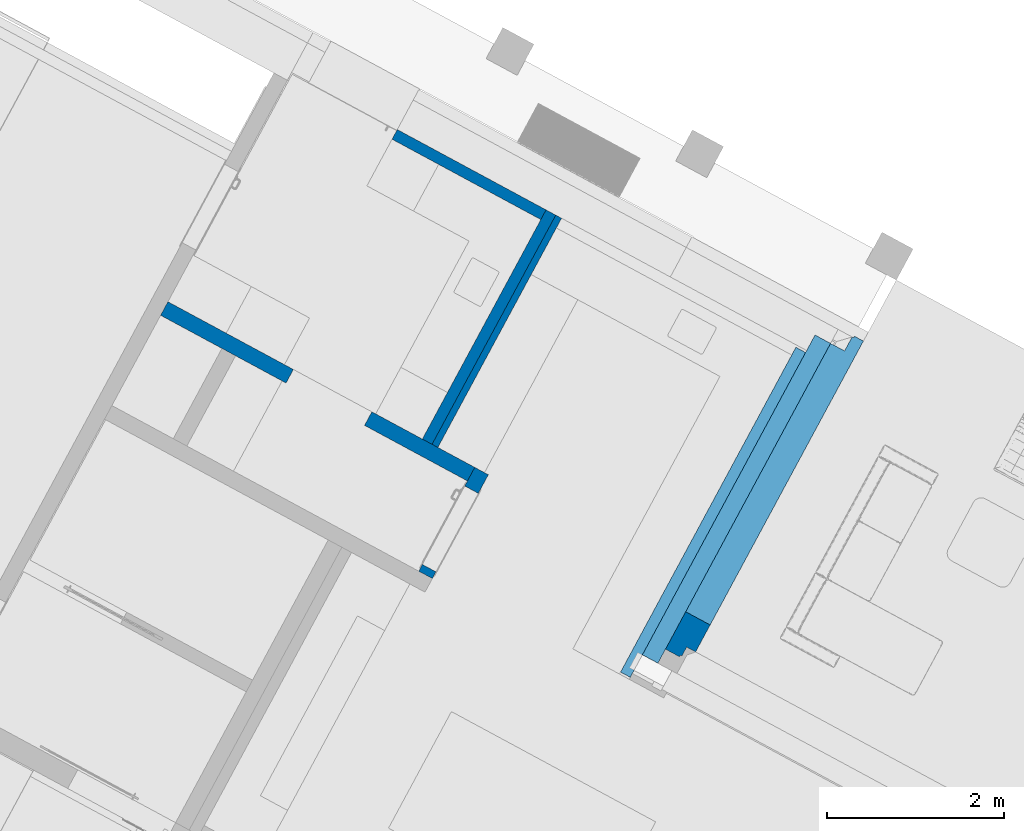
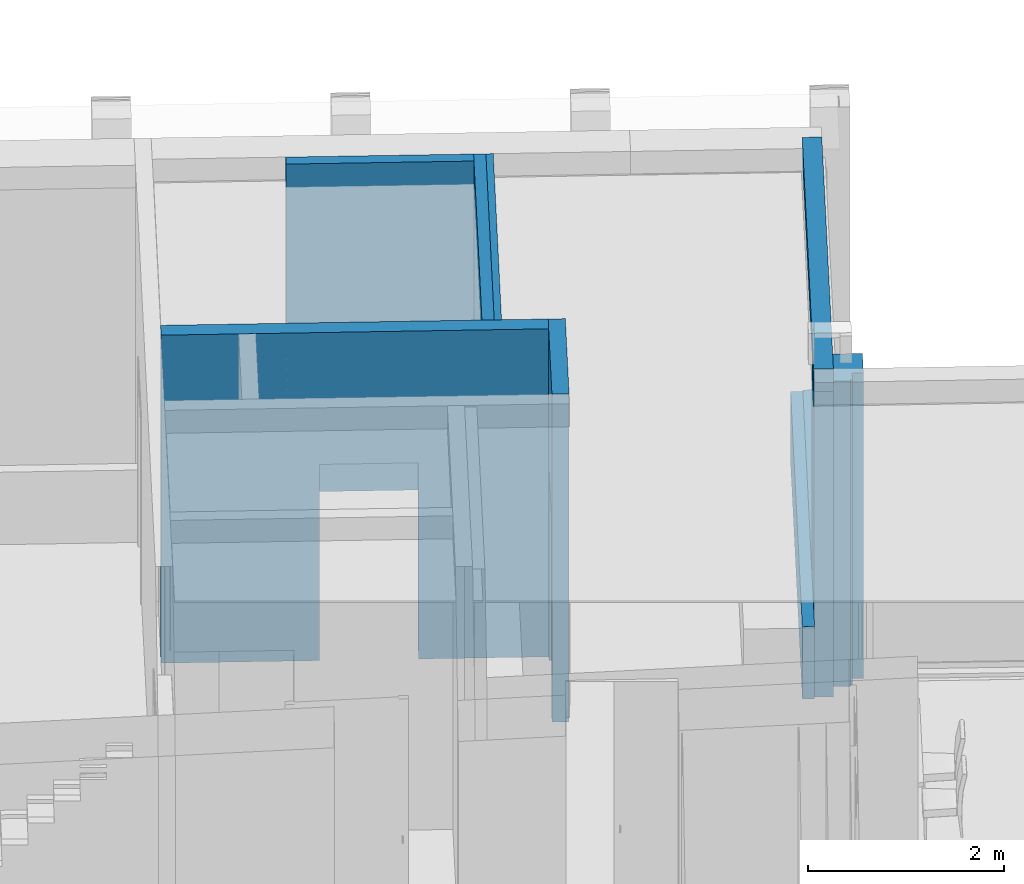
# One storey, part 20 of 52: 8 walls, 3 openings.
"""IFC2X3 building model written with IfcOpenShell, lengths in metres."""

import ifcopenshell
import ifcopenshell.guid

model = None  # the IFC model being written
_history = None  # IfcOwnerHistory: only IFC2X3 demands one
_inside = {}  # id of a spatial element -> (the spatial element, [elements in it])
_under = {}  # id of a project, library or spatial element -> (it, [spatial elements below it])
_declared = {}  # id of a project -> (the project, [libraries it declares])
_typed = {}  # id of a type object -> (the type object, [elements of that type])
_made_of = {}  # id of a material, layer set ... -> (it, [elements and type objects made of it])


def new_model(schema):
    """Start an empty IFC model of exactly this schema.

    Asked for "IFC4X3", IfcOpenShell would pick the latest addendum, in which some entities
    have other attributes; the version numbers below select the first issue.
    IFC2X3 requires an IfcOwnerHistory on every rooted entity: one is made here for all.
    """
    global model, _history
    if schema == "IFC4X3":
        model = ifcopenshell.file(schema_version=(4, 3, 0, 0))
    else:
        model = ifcopenshell.file(schema=schema)
    _inside.clear()
    _under.clear()
    _declared.clear()
    _typed.clear()
    _made_of.clear()
    _history = None
    if model.schema == "IFC2X3":
        org = make("IfcOrganization", Name="unknown")
        user = make(
            "IfcPersonAndOrganization",
            ThePerson=make("IfcPerson", FamilyName="unknown"),
            TheOrganization=org,
        )
        app = make(
            "IfcApplication",
            ApplicationDeveloper=org,
            Version="unknown",
            ApplicationFullName="unknown",
            ApplicationIdentifier="unknown",
        )
        _history = make(
            "IfcOwnerHistory",
            OwningUser=user,
            OwningApplication=app,
            ChangeAction="ADDED",
            CreationDate=0,
        )
    return model


def make(cls, **values):
    """One entity of the class cls with the attributes given. An attribute that is None is left unset."""
    return model.create_entity(
        cls, **{name: value for name, value in values.items() if value is not None}
    )


def entity(cls, *values):
    """Any entity or typed value of the class cls, its attributes in the order of the schema. None: left unset."""
    e = model.create_entity(cls)
    for i, value in enumerate(values):
        if value is not None:
            e[i] = value
    return e


def rooted(cls, **values):
    """An entity with a GlobalId (a new one), such as an element, a storey or a relation."""
    return make(cls, GlobalId=ifcopenshell.guid.new(), OwnerHistory=_history, **values)


def si_unit(unit_type, name, prefix=None):
    """IfcSIUnit, for example si_unit("LENGTHUNIT", "METRE", prefix="MILLI")."""
    return make("IfcSIUnit", UnitType=unit_type, Prefix=prefix, Name=name)


def converted_unit(unit_type, name, factor, base, dimensions=None, offset=None):
    """IfcConversionBasedUnit, such as the inch: factor (a typed value) times the base unit."""
    return make(
        "IfcConversionBasedUnit"
        if offset is None
        else "IfcConversionBasedUnitWithOffset",
        ConversionOffset=offset,
        Dimensions=None
        if dimensions is None
        else entity("IfcDimensionalExponents", *dimensions),
        UnitType=unit_type,
        Name=name,
        ConversionFactor=make(
            "IfcMeasureWithUnit", ValueComponent=factor, UnitComponent=base
        ),
    )


def derived_unit(unit_type, elements):
    """IfcDerivedUnit: a product of units, each with its exponent."""
    return make(
        "IfcDerivedUnit",
        Elements=[
            make("IfcDerivedUnitElement", Unit=unit, Exponent=power)
            for unit, power in elements
        ],
        UnitType=unit_type,
    )


def money_unit(currency):
    """IfcMonetaryUnit."""
    return make("IfcMonetaryUnit", Currency=currency)


def assignment(units):
    """IfcUnitAssignment: the units of a project."""
    return None if units is None else make("IfcUnitAssignment", Units=units)


def point(xyz):
    """IfcCartesianPoint."""
    return None if xyz is None else make("IfcCartesianPoint", Coordinates=xyz)


def direction(xyz):
    """IfcDirection."""
    return None if xyz is None else make("IfcDirection", DirectionRatios=xyz)


def frame(location, z_axis=None, x_axis=None):
    """IfcAxis2Placement3D, a coordinate frame: its origin and axes. An axis left out is left unset."""
    return make(
        "IfcAxis2Placement3D",
        Location=point(location),
        Axis=direction(z_axis),
        RefDirection=direction(x_axis),
    )


def frame_2d(location, x_axis=None):
    """IfcAxis2Placement2D, a coordinate frame in the plane: its origin and x axis."""
    return make(
        "IfcAxis2Placement2D", Location=point(location), RefDirection=direction(x_axis)
    )


def origin_with_axes():
    """The frame at (0, 0, 0) with the z axis (0, 0, 1) and the x axis (1, 0, 0) written out."""
    return frame((0.0, 0.0, 0.0), z_axis=(0.0, 0.0, 1.0), x_axis=(1.0, 0.0, 0.0))


def origin_2d_with_axis():
    """The frame at (0, 0) in the plane with the x axis (1, 0) written out."""
    return frame_2d((0.0, 0.0), x_axis=(1.0, 0.0))


def place(relative_to, where):
    """IfcLocalPlacement: puts the frame where relative to a parent placement (None: the world)."""
    return make(
        "IfcLocalPlacement", PlacementRelTo=relative_to, RelativePlacement=where
    )


def context(
    kind, dimensions, precision=None, world=None, true_north=None, identifier=None
):
    """IfcGeometricRepresentationContext, for example the 3D "Model" context."""
    return make(
        "IfcGeometricRepresentationContext",
        ContextIdentifier=identifier,
        ContextType=kind,
        CoordinateSpaceDimension=dimensions,
        Precision=precision,
        WorldCoordinateSystem=world,
        TrueNorth=true_north,
    )


def subcontext(parent, identifier, kind, view, scale=None):
    """IfcGeometricRepresentationSubContext, for example "Body" below "Model"."""
    return make(
        "IfcGeometricRepresentationSubContext",
        ContextIdentifier=identifier,
        ContextType=kind,
        ParentContext=parent,
        TargetScale=scale,
        TargetView=view,
    )


def project(units=None, contexts=None):
    """IfcProject with its units and contexts."""
    return rooted(
        "IfcProject",
        Name="project",
        RepresentationContexts=contexts,
        UnitsInContext=assignment(units),
    )


def spatial(cls, under=None, at=None, **own):
    """A site, building, storey or space (cls), placed at a placement, below another one or the project."""
    s = rooted(cls, ObjectPlacement=at, **own)
    if under is not None:
        _under.setdefault(under.id(), (under, []))[1].append(s)
    return s


def profile(cls, at=None, kind="AREA", **sizes):
    """A parametric profile (cls). Its sizes go by their IFC names, for example OverallWidth=200.0."""
    return make(cls, ProfileType=kind, Position=at, **sizes)


def rectangle(**sizes):
    """IfcRectangleProfileDef."""
    return profile("IfcRectangleProfileDef", **sizes)


def extrude(swept, where, along, depth):
    """IfcExtrudedAreaSolid: the profile swept, set in the frame where, extruded along a direction by depth."""
    return make(
        "IfcExtrudedAreaSolid",
        SweptArea=swept,
        Position=where,
        ExtrudedDirection=direction(along),
        Depth=depth,
    )


def faces_of(points, faces, orient=None, outer=None):
    """IfcFace entities. A face is a list of loops; a loop is a list of indices into points, from 0.

    orient and outer hold one flag for each loop. By default every Orientation is true, the
    first loop of a face is its IfcFaceOuterBound and the others are IfcFaceBound.
    """
    made = []
    for i, loops in enumerate(faces):
        bounds = []
        for j, loop in enumerate(loops):
            is_outer = j == 0 if outer is None else outer[i][j]
            bounds.append(
                make(
                    "IfcFaceOuterBound" if is_outer else "IfcFaceBound",
                    Bound=make("IfcPolyLoop", Polygon=[points[k] for k in loop]),
                    Orientation=True if orient is None else orient[i][j],
                )
            )
        made.append(make("IfcFace", Bounds=bounds))
    return made


def faceted_brep(points, faces, orient=None, outer=None, voids=None):
    """IfcFacetedBrep: a solid bounded by flat faces; with voids (closed shells), ...WithVoids."""
    shared = [point(p) for p in points]
    hull = make("IfcClosedShell", CfsFaces=faces_of(shared, faces, orient, outer))
    if voids is None:
        return make("IfcFacetedBrep", Outer=hull)
    return make(
        "IfcFacetedBrepWithVoids",
        Outer=hull,
        Voids=[
            make(cls, CfsFaces=faces_of(shared, fs, o, b)) for cls, fs, o, b in voids
        ],
    )


def shape(context_of_items, identifier, shape_type, items):
    """IfcShapeRepresentation: the items that make up one representation, for example the "Body"."""
    return make(
        "IfcShapeRepresentation",
        ContextOfItems=context_of_items,
        RepresentationIdentifier=identifier,
        RepresentationType=shape_type,
        Items=items,
    )


def material(Name=None, Category=None):
    """IfcMaterial."""
    return make("IfcMaterial", Name=Name, Category=Category)


def material_list(materials):
    """IfcMaterialList."""
    return make("IfcMaterialList", Materials=materials)


def made_of(thing, what):
    """Note that an element or type object is made of a material, layer set ...; save() writes the relation."""
    if what is not None:
        _made_of.setdefault(what.id(), (what, []))[1].append(thing)
    return thing


def type_object(cls, material=None, **own):
    """A type object (cls), such as IfcWallType, which elements share."""
    return made_of(rooted(cls, **own), material)


def element(
    cls,
    number,
    at=None,
    inside=None,
    cuts=None,
    type_object=None,
    material=None,
    context=None,
    identifier="Body",
    shape_type=None,
    held_by="IfcProductDefinitionShape",
    body=None,
    shapes=None,
    **own,
):
    """One element of the class cls, such as IfcWall. Its Tag is "e" and its number.

    at: its placement. inside: the storey or other place that contains it. cuts: it is an
    opening in that element (IfcRelVoidsElement). A single representation is given by context,
    identifier, shape_type and body (its items); several are given by shapes. held_by: the class
    of the entity that holds the representations. save() writes the other relations.
    """
    e = rooted(cls, Tag="e%d" % number, ObjectPlacement=at, **own)
    if body is not None:
        shapes = [shape(context, identifier, shape_type, body)]
    if shapes is not None:
        e.Representation = make(held_by, Representations=shapes)
    if inside is not None:
        _inside.setdefault(inside.id(), (inside, []))[1].append(e)
    if cuts is not None:
        rooted(
            "IfcRelVoidsElement", RelatingBuildingElement=cuts, RelatedOpeningElement=e
        )
    if type_object is not None:
        _typed.setdefault(type_object.id(), (type_object, []))[1].append(e)
    return made_of(e, material)


def aggregate(whole, parts):
    """IfcRelAggregates: a whole, such as a stair, and the parts it consists of."""
    return rooted("IfcRelAggregates", RelatingObject=whole, RelatedObjects=parts)


def save(model, path):
    """Write the relations noted so far, then the file.

    IfcRelAggregates (storeys below a building ...), IfcRelContainedInSpatialStructure (elements
    in a storey), IfcRelDefinesByType, IfcRelAssociatesMaterial and IfcRelDeclares: one each for
    every whole, place, type object, material and project.
    """
    for whole, parts in _under.values():
        aggregate(whole, parts)
    for where, things in _inside.values():
        rooted(
            "IfcRelContainedInSpatialStructure",
            RelatedElements=things,
            RelatingStructure=where,
        )
    for kind, things in _typed.values():
        rooted("IfcRelDefinesByType", RelatedObjects=things, RelatingType=kind)
    for what, things in _made_of.values():
        rooted("IfcRelAssociatesMaterial", RelatedObjects=things, RelatingMaterial=what)
    for by, libraries in _declared.values():
        rooted("IfcRelDeclares", RelatingContext=by, RelatedDefinitions=libraries)
    model.write(path)


model = new_model("IFC2X3")

# Units and contexts
model_context = context("Model", 3, precision=1e-05, world=origin_with_axes(), true_north=direction((0.0, 1.0)))
body_context = subcontext(model_context, "Body", "Model", "MODEL_VIEW")
ifc_project = project(units=[si_unit("LENGTHUNIT", "METRE"), si_unit("AREAUNIT", "SQUARE_METRE"), si_unit("VOLUMEUNIT", "CUBIC_METRE"), converted_unit("PLANEANGLEUNIT", "DEGREE", entity("IfcPlaneAngleMeasure", 0.0174532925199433), si_unit("PLANEANGLEUNIT", "RADIAN"), dimensions=[0, 0, 0, 0, 0, 0, 0]), money_unit("EUR"), converted_unit("TIMEUNIT", "Year", entity("IfcTimeMeasure", 31556926.0), si_unit("TIMEUNIT", "SECOND"), dimensions=[0, 0, 1, 0, 0, 0, 0]), si_unit("MASSUNIT", "GRAM", prefix="KILO"), si_unit("THERMODYNAMICTEMPERATUREUNIT", "DEGREE_CELSIUS"), si_unit("LUMINOUSINTENSITYUNIT", "LUMEN"), si_unit("ENERGYUNIT", "JOULE", prefix="MEGA"), derived_unit("THERMALCONDUCTANCEUNIT", [(si_unit("POWERUNIT", "WATT"), 1), (si_unit("LENGTHUNIT", "METRE"), -1), (si_unit("THERMODYNAMICTEMPERATUREUNIT", "KELVIN"), -1)]), derived_unit("SPECIFICHEATCAPACITYUNIT", [(si_unit("ENERGYUNIT", "JOULE"), 1), (si_unit("MASSUNIT", "GRAM", prefix="KILO"), -1), (si_unit("THERMODYNAMICTEMPERATUREUNIT", "KELVIN"), -1)]), derived_unit("MASSDENSITYUNIT", [(si_unit("MASSUNIT", "GRAM", prefix="KILO"), 1), (si_unit("VOLUMEUNIT", "CUBIC_METRE"), -1)])], contexts=[model_context])

# Site, building, storey
site_placement = place(None, frame((-3.949935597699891, 1.740105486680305, 0.0), z_axis=(0.0, 0.0, 1.0), x_axis=(0.8799804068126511, -0.475009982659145, 0.0)))
site = spatial("IfcSite", under=ifc_project, at=site_placement, Name="Gelände", CompositionType="ELEMENT")
building_placement = place(site_placement, origin_with_axes())
building = spatial("IfcBuilding", under=site, at=building_placement, Name="Gebäude", CompositionType="ELEMENT")
storey_placement = place(building_placement, origin_with_axes())
storey = spatial("IfcBuildingStorey", under=building, at=storey_placement, Name="Erdgeschoss", CompositionType="ELEMENT", Elevation=0.0)

# Wall, opening
ifc_material_1 = material(Name="_SIWH - MW Kalksandstein")
wall_type_1 = type_object("IfcWallType", Name="_SIWH - WI | KS 17,5 | 17,5cm 175", PredefinedType="NOTDEFINED")
wall_1_placement = place(storey_placement, frame((14.66295449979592, 15.87470991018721, -0.18), z_axis=(0.0, 0.0, 1.0), x_axis=(-0.9999999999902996, -4.404635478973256e-06, 0.0)))
wall_1 = element("IfcWall", 1, at=wall_1_placement, inside=storey, type_object=wall_type_1, material=ifc_material_1, Name="I-Wand000", context=body_context, shape_type="Brep", body=[
    faceted_brep([(2.510218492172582, -0.1749999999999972, 2.44), (2.510218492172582, -0.1750000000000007, 0.18), (2.510218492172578, -0.1749999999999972, 0.0), (4.125546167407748, -0.1750000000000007, 0.0), (4.125546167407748, -0.1750000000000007, 4.080000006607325), (0.1750000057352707, -0.1750000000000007, 4.080000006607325), (0.1750000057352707, -0.1750000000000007, 0.0), (1.500218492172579, -0.1750000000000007, 0.0), (1.50021849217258, -0.1750000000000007, 0.18), (1.50021849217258, -0.1750000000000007, 2.44), (2.510218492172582, 0.0, 2.44), (2.510218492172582, 0.0, 0.18), (2.510218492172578, 0.0, 0.0), (4.125546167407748, 0.0, 0.0), (4.125546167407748, 0.0, 4.080000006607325), (0.1750000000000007, 0.0, 4.080000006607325), (0.1750000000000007, 0.0, 0.0), (1.500218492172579, 0.0, 0.0), (1.50021849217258, 0.0, 0.18), (1.50021849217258, 0.0, 2.44)], [[[0, 1, 2, 3, 4, 5, 6, 7, 8, 9]], [[1, 0, 10, 11]], [[1, 11, 12, 2]], [[2, 12, 13, 3]], [[14, 4, 3, 13]], [[4, 14, 15, 5]], [[6, 5, 15, 16]], [[17, 7, 6, 16]], [[18, 8, 7, 17]], [[9, 8, 18, 19]], [[0, 9, 19, 10]], [[19, 18, 17, 16, 15, 14, 13, 12, 11, 10]]]),
])
opening_1_placement = place(wall_1_placement, frame((2.005218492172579, 0.0, 0.18), z_axis=(0.0, 0.0, 1.0), x_axis=(1.0, 0.0, 0.0)))
element("IfcOpeningElement", 2, at=opening_1_placement, cuts=wall_1, Name="Tür-026", context=body_context, shape_type="SweptSolid", body=[
    extrude(rectangle(XDim=1.010000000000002, YDim=2.26, at=origin_2d_with_axis()), frame((0.0, 0.1750000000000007, 1.13), z_axis=(0.0, 1.0, 0.0), x_axis=(-1.0, 0.0, 0.0)), (0.0, 0.0, -1.0), 0.5249999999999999),
])

wall_2_placement = place(storey_placement, frame((14.66296043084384, 14.53810816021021, -0.18), z_axis=(0.0, 0.0, 1.0), x_axis=(-4.437408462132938e-06, 0.9999999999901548, 0.0)))
wall_2 = element("IfcWall", 3, at=wall_2_placement, inside=storey, type_object=wall_type_1, material=ifc_material_1, Name="I-Wand030", context=body_context, shape_type="Brep", body=[
    faceted_brep([(0.2615853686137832, 0.0, 0.18), (0.2615853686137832, 0.0, 2.44), (1.271585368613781, 0.0, 2.44), (1.271585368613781, 0.0, 0.18), (1.271585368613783, 0.0, 0.0), (1.511601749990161, 0.0, 0.0), (1.511601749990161, 0.0, 4.080000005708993), (0.1750000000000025, 0.0, 4.080000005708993), (0.1750000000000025, 0.0, 0.0), (0.2615853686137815, 0.0, 0.0), (0.2615853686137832, 0.1750000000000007, 0.18), (0.2615853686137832, 0.1750000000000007, 2.44), (1.271585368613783, 0.1749999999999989, 2.44), (1.271585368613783, 0.1749999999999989, 0.18), (1.271585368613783, 0.1749999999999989, 0.0), (1.511601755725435, 0.1750000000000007, 0.0), (1.511601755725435, 0.1750000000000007, 4.080000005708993), (0.1750000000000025, 0.1750000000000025, 4.080000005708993), (0.1750000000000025, 0.1750000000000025, 0.0), (0.2615853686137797, 0.1750000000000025, 0.0)], [[[0, 1, 2, 3, 4, 5, 6, 7, 8, 9]], [[1, 0, 10, 11]], [[2, 1, 11, 12]], [[3, 2, 12, 13]], [[3, 13, 14, 4]], [[4, 14, 15, 5]], [[5, 15, 16, 6]], [[6, 16, 17, 7]], [[17, 18, 8, 7]], [[19, 9, 8, 18]], [[10, 0, 9, 19]], [[11, 10, 19, 18, 17, 16, 15, 14, 13, 12]]]),
])
opening_2_placement = place(wall_2_placement, frame((0.7665853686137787, 0.0, 0.18), z_axis=(0.0, 0.0, 1.0), x_axis=(1.0, 0.0, 0.0)))
element("IfcOpeningElement", 4, at=opening_2_placement, cuts=wall_2, Name="Tür-017", context=body_context, shape_type="SweptSolid", body=[
    extrude(rectangle(XDim=1.009999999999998, YDim=2.26, at=origin_2d_with_axis()), frame((0.0, -0.1750000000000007, 1.13), z_axis=(0.0, -1.0, 0.0), x_axis=(-1.0, 0.0, 0.0)), (0.0, 0.0, -1.0), 0.5249999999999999),
])

# Walls
ifc_material_2 = material(Name="_SIWH - Beton, Stahlbeton")
wall_type_2 = type_object("IfcWallType", Name="_SIWH - Beton, Stahlbeton 200", PredefinedType="NOTDEFINED")
wall_3_placement = place(storey_placement, frame((17.16747696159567, 15.08304610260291, 3.620000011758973), z_axis=(0.0, 0.0, 1.0), x_axis=(0.0, 1.0, 0.0)))
element("IfcWall", 5, at=wall_3_placement, inside=storey, type_object=wall_type_2, material=ifc_material_2, Name="A-Wand034", context=body_context, shape_type="Brep", body=[
    faceted_brep([(4.117242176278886, -0.1999999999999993, 0.2799999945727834), (4.117242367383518, 0.0, 0.2799999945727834), (0.0, 0.0, 0.2799999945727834), (0.0, -0.1999999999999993, 0.2799999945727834), (4.117242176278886, -0.1999999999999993, 0.0), (4.117242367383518, 0.0, 0.0), (0.0, 0.0, 0.0), (0.0, -0.1999999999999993, 0.0)], [[[0, 1, 2, 3]], [[1, 0, 4, 5]], [[1, 5, 6, 2]], [[7, 3, 2, 6]], [[4, 0, 3, 7]], [[5, 4, 7, 6]]]),
])
ifc_material_3 = material(Name="_SIWH - Gipskarton")
ifc_material_4 = material(Name="_SIWH - Dämmung, weich Mineralwolle")
ifc_material_list_1 = material_list([ifc_material_3, ifc_material_3, ifc_material_4, ifc_material_3, ifc_material_3])
wall_type_3 = type_object("IfcWallType", Name="_SIWH - WI | GK 2-lagig | 12,5cm 125", PredefinedType="NOTDEFINED")
wall_4_placement = place(storey_placement, frame((13.81273523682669, 15.87470568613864, -0.18), z_axis=(0.0, 0.0, 1.0), x_axis=(0.0, 1.0, 0.0)))
element("IfcWall", 6, at=wall_4_placement, inside=storey, type_object=wall_type_3, material=ifc_material_list_1, Name="L-Wand044", context=body_context, shape_type="Brep", body=[
    faceted_brep([(2.845609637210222, -0.01249999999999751, 0.0), (2.845609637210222, -0.01249999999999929, 0.9675428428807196), (3.025609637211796, -0.01249999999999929, 0.9675428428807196), (3.025609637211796, -0.01249999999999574, 0.0), (3.12558597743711, -0.01249999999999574, 0.0), (3.125585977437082, -0.01249999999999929, 3.800000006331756), (3.125585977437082, -0.01249999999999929, 3.880000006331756), (3.125585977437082, -0.01249999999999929, 4.080000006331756), (0.1750005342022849, -0.01249999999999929, 4.08000000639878), (0.1750005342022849, -0.01249999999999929, 0.0), (2.845609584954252, 0.0, 0.0), (2.845609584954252, 0.0, 0.9675428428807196), (3.025609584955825, 0.0, 0.9675428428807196), (3.025609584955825, 0.0, 0.0), (3.125585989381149, 0.0, 0.0), (3.12558598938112, 0.0, 3.800000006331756), (3.12558598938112, 0.0, 3.880000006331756), (3.12558598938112, 0.0, 4.080000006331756), (0.1750004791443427, 0.0, 4.08000000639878), (0.1750004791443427, 0.0, 0.0)], [[[0, 1, 2, 3, 4, 5, 6, 7, 8, 9]], [[1, 0, 10, 11]], [[2, 1, 11, 12]], [[3, 2, 12, 13]], [[3, 13, 14, 4]], [[15, 5, 4, 14]], [[16, 6, 5, 15]], [[17, 7, 6, 16]], [[7, 17, 18, 8]], [[9, 8, 18, 19]], [[10, 0, 9, 19]], [[11, 10, 19, 18, 17, 16, 15, 14, 13, 12]]]),
    faceted_brep([(3.125585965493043, -0.02500000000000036, 3.880000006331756), (3.125585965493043, -0.02500000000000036, 4.080000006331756), (0.1750005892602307, -0.02500000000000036, 4.08000000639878), (0.1750005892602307, -0.02500000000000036, 0.0), (3.125585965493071, -0.02499999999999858, 0.0), (3.125585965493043, -0.02500000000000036, 3.800000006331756), (3.125585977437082, -0.01249999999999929, 4.080000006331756), (3.125585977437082, -0.01249999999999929, 3.880000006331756), (0.1750005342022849, -0.01249999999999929, 4.08000000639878), (0.1750005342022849, -0.01249999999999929, 0.0), (3.12558597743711, -0.01249999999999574, 0.0), (3.125585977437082, -0.01249999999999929, 3.800000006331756)], [[[0, 1, 2, 3, 4, 5]], [[6, 1, 0, 7]], [[1, 6, 8, 2]], [[3, 2, 8, 9]], [[10, 4, 3, 9]], [[11, 5, 4, 10]], [[7, 0, 5, 11]], [[6, 7, 11, 10, 9, 8]]]),
    faceted_brep([(3.125585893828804, -0.09999999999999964, 3.880000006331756), (3.125585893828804, -0.09999999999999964, 4.080000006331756), (0.175000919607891, -0.09999999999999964, 4.080000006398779), (0.175000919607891, -0.09999999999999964, 0.0), (3.125585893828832, -0.09999999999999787, 0.0), (3.125585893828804, -0.09999999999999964, 3.800000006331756), (3.125585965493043, -0.02500000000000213, 4.080000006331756), (3.125585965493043, -0.02500000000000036, 3.880000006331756), (0.1750005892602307, -0.02500000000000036, 4.08000000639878), (0.1750005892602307, -0.02500000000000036, 0.0), (3.125585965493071, -0.02499999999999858, 0.0), (3.125585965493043, -0.02500000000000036, 3.800000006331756)], [[[0, 1, 2, 3, 4, 5]], [[6, 1, 0, 7]], [[1, 6, 8, 2]], [[3, 2, 8, 9]], [[10, 4, 3, 9]], [[11, 5, 4, 10]], [[7, 0, 5, 11]], [[6, 7, 11, 10, 9, 8]]]),
    faceted_brep([(3.125585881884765, -0.1125000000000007, 3.880000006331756), (3.125585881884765, -0.1124999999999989, 4.080000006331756), (0.1750009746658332, -0.1124999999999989, 4.080000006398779), (0.1750009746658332, -0.1125000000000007, 0.0), (3.12558588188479, -0.1124999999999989, 0.0), (3.125585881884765, -0.1125000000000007, 3.800000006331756), (3.125585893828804, -0.1000000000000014, 4.080000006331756), (3.125585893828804, -0.09999999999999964, 3.880000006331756), (0.175000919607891, -0.09999999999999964, 4.080000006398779), (0.175000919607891, -0.09999999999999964, 0.0), (3.125585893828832, -0.09999999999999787, 0.0), (3.125585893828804, -0.09999999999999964, 3.800000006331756)], [[[0, 1, 2, 3, 4, 5]], [[6, 1, 0, 7]], [[1, 6, 8, 2]], [[3, 2, 8, 9]], [[10, 4, 3, 9]], [[11, 5, 4, 10]], [[7, 0, 5, 11]], [[6, 7, 11, 10, 9, 8]]]),
    faceted_brep([(2.84561010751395, -0.125, 0.0), (2.84561010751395, -0.125, 0.9675428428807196), (3.02561010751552, -0.125, 0.9675428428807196), (3.02561010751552, -0.125, 0.0), (3.125585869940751, -0.125, 0.0), (3.125585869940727, -0.125, 3.800000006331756), (3.125585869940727, -0.125, 3.880000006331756), (3.125585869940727, -0.125, 4.080000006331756), (0.1750010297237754, -0.125, 4.080000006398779), (0.1750010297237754, -0.125, 0.0), (2.84561005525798, -0.1124999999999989, 0.0), (2.84561005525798, -0.1125000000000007, 0.9675428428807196), (3.02561005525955, -0.1124999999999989, 0.9675428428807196), (3.02561005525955, -0.1125000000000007, 0.0), (3.12558588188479, -0.1125000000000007, 0.0), (3.125585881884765, -0.1124999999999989, 3.800000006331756), (3.125585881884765, -0.1124999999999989, 3.880000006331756), (3.125585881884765, -0.1125000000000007, 4.080000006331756), (0.1750009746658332, -0.1124999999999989, 4.080000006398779), (0.1750009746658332, -0.1125000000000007, 0.0)], [[[0, 1, 2, 3, 4, 5, 6, 7, 8, 9]], [[1, 0, 10, 11]], [[2, 1, 11, 12]], [[3, 2, 12, 13]], [[3, 13, 14, 4]], [[15, 5, 4, 14]], [[16, 6, 5, 15]], [[17, 7, 6, 16]], [[7, 17, 18, 8]], [[9, 8, 18, 19]], [[10, 0, 9, 19]], [[11, 10, 19, 18, 17, 16, 15, 14, 13, 12]]]),
])

# Wall, opening
ifc_material_5 = material(Name="_SIWH - MW Vormauerziegel")
ifc_material_6 = material(Name="_SIWH - Luftschicht vertikal")
ifc_material_list_2 = material_list([ifc_material_5, ifc_material_6, ifc_material_4, ifc_material_2])
wall_type_4 = type_object("IfcWallType", Name="_SIWH - WA | Stb. 20+WD 18+LS 2+Verblender 11,5 | 51,5cm 515", PredefinedType="NOTDEFINED")
wall_5_placement = place(storey_placement, frame((17.3674759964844, 19.20028827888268, -0.1800000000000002), z_axis=(0.0, 0.0, 1.0), x_axis=(4.414871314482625e-06, -0.9999999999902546, 0.0)))
wall_5 = element("IfcWall", 7, at=wall_5_placement, inside=storey, type_object=wall_type_4, material=ifc_material_list_2, Name="A-Wand003", context=body_context, shape_type="Brep", body=[
    faceted_brep([(-0.1999983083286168, 0.3149999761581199, 1.08), (3.455027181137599, 0.3149999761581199, 1.08), (3.455027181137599, 0.3149999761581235, 3.800000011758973), (3.802243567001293, 0.3150000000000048, 3.8), (3.802243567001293, 0.3150000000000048, 0.0), (-0.1999983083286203, 0.3150000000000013, 0.0), (-0.1999989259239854, 0.2000000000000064, 1.08), (3.455027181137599, 0.2000000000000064, 1.08), (3.455027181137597, 0.1999999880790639, 3.800000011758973), (3.802243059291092, 0.2000000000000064, 3.8), (3.802243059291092, 0.2000000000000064, 0.0), (-0.1999989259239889, 0.2000000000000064, 0.0)], [[[0, 1, 2, 3, 4, 5]], [[1, 0, 6, 7]], [[8, 2, 1, 7]], [[2, 8, 9, 3]], [[3, 9, 10, 4]], [[4, 10, 11, 5]], [[6, 0, 5, 11]], [[7, 6, 11, 10, 9, 8]]]),
    faceted_brep([(-0.1799989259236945, 0.2000000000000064, 1.08), (3.455027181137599, 0.2000000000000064, 1.08), (3.455027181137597, 0.1999999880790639, 3.800000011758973), (3.917243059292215, 0.2000000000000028, 3.8), (3.917243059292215, 0.2000000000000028, 0.0), (-0.1799989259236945, 0.2000000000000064, 0.0), (-0.1799990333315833, 0.1800000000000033, 1.08), (3.455027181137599, 0.1799999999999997, 1.08), (3.455027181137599, 0.1799999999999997, 3.800000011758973), (3.917242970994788, 0.1799999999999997, 3.8), (3.917242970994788, 0.1799999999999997, 0.0), (-0.1799990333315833, 0.1800000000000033, 0.0)], [[[0, 1, 2, 3, 4, 5]], [[1, 0, 6, 7]], [[8, 2, 1, 7]], [[2, 8, 9, 3]], [[4, 3, 9, 10]], [[5, 4, 10, 11]], [[6, 0, 5, 11]], [[7, 6, 11, 10, 9, 8]]]),
    faceted_brep([(9.666710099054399e-07, 0.1800000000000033, 1.08), (3.455027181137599, 0.1799999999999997, 1.08), (3.455027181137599, 0.1799999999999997, 3.800000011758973), (3.937242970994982, 0.1799999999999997, 3.8), (3.937242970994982, 0.1799999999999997, 0.0), (9.666710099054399e-07, 0.1800000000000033, 0.0), (0.0, 0.0, 1.08), (3.4550271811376, 0.0, 1.08), (3.455027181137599, -5.960465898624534e-09, 3.800000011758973), (3.937242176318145, 0.0, 3.8), (3.937242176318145, 0.0, 0.0), (0.0, 0.0, 0.0)], [[[0, 1, 2, 3, 4, 5]], [[1, 0, 6, 7]], [[8, 2, 1, 7]], [[2, 8, 9, 3]], [[4, 3, 9, 10]], [[5, 4, 10, 11]], [[6, 0, 5, 11]], [[7, 6, 11, 10, 9, 8]]]),
    faceted_brep([(0.2000000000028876, 0.0, 1.08), (3.4550271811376, 0.0, 1.08), (3.455027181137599, -5.960465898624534e-09, 3.800000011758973), (4.117242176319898, 0.0, 3.8), (4.117242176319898, 0.0, 0.0), (0.2000000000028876, 0.0, 0.0), (0.1999993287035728, -0.1249999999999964, 1.08), (3.4550271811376, -0.1249999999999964, 1.08), (3.4550271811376, -0.1249999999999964, 3.800000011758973), (3.4550271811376, -0.1999999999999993, 3.800000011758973), (4.117241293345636, -0.1999999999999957, 3.8), (4.117241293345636, -0.1999999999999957, 0.0), (0.1999989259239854, -0.1999999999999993, 0.0), (0.1999989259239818, -0.1999999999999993, 1.08), (3.4550271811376, -0.1999999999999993, 1.08)], [[[0, 1, 2, 3, 4, 5]], [[1, 0, 6, 7]], [[8, 2, 1, 7]], [[8, 9, 10, 3, 2]], [[4, 3, 10, 11]], [[5, 4, 11, 12]], [[6, 0, 5, 12, 13]], [[6, 13, 14, 7]], [[9, 8, 7, 14]], [[14, 13, 12, 11, 10, 9]]]),
])
opening_3_placement = place(wall_5_placement, frame((1.825014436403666, 0.0, 1.08), z_axis=(0.0, 0.0, 1.0), x_axis=(1.0, 0.0, 0.0)))
element("IfcOpeningElement", 8, at=opening_3_placement, cuts=wall_5, Name="Eckfenster-008", context=body_context, shape_type="Brep", body=[
    faceted_brep([(-1.700015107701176, -0.125, 2.720000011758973), (1.630012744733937, -0.125, 2.720000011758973), (1.630012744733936, 0.316018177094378, 2.720000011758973), (-2.140012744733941, 0.316018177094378, 2.720000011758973), (-2.140012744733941, 0.3149999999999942, 2.720000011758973), (-1.623997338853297, -0.2010181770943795, 2.720000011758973), (1.630012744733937, -0.2010181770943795, 2.720000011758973), (1.630012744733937, -0.125, 0.0), (1.630012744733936, 0.316018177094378, 0.0), (-2.140012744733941, 0.316018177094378, 0.0), (-2.140012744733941, 0.3149999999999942, 0.0), (-1.700015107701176, -0.125, 0.0), (-1.623997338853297, -0.2010181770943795, 0.0), (1.630012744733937, -0.2010181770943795, 0.0)], [[[0, 1, 2, 3, 4]], [[1, 0, 5, 6]], [[1, 7, 8, 2]], [[2, 8, 9, 3]], [[4, 3, 9, 10]], [[4, 10, 11, 12, 5, 0]], [[12, 13, 6, 5]], [[7, 1, 6, 13]], [[7, 11, 10, 9, 8]], [[11, 7, 13, 12]]]),
])

# Walls
ifc_material_7 = material(Name="_SIWH - Installationswand, raumhoch")
ifc_material_list_3 = material_list([ifc_material_7, ifc_material_3, ifc_material_3])
wall_type_5 = type_object("IfcWallType", Name="_SIWH - WI | Vorsatz-GK 2-lagig | 7,5cm  75", PredefinedType="NOTDEFINED")
wall_6_placement = place(storey_placement, frame((13.93773523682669, 15.87470625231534, -0.1800000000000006), z_axis=(0.0, 0.0, 1.0), x_axis=(0.0, 1.0, 0.0)))
element("IfcWall", 9, at=wall_6_placement, inside=storey, type_object=wall_type_5, material=ifc_material_list_3, Name="L-Wand034", context=body_context, shape_type="Brep", body=[
    faceted_brep([(3.110550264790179, -0.04999999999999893, 3.780000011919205), (0.1750006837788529, -0.04999999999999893, 3.780000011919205), (0.1750006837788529, -0.05000000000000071, 0.1800000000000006), (2.845609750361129, -0.04999999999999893, 0.1800000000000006), (2.845609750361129, -0.05000000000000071, 0.9675428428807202), (3.000585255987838, -0.05000000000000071, 0.9675428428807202), (3.000585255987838, -0.05000000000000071, 1.080000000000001), (3.125585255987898, -0.0499999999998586, 1.080000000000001), (3.125585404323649, -0.04999999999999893, 4.080000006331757), (0.1750006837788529, -0.04999999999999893, 4.080000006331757), (0.1750006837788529, -0.04999999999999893, 3.795000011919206), (3.110550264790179, -0.04999999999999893, 3.795000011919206), (3.11055100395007, 1.583941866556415e-10, 3.780000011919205), (0.175000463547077, 0.0, 3.780000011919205), (0.175000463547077, 0.0, 0.1800000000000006), (2.845609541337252, 0.0, 0.1800000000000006), (2.845609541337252, 1.583941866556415e-10, 0.9675428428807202), (3.000585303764, 1.419007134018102e-10, 0.9675428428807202), (3.000585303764, 1.583941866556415e-10, 1.080000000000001), (3.125585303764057, 1.583906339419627e-10, 1.080000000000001), (3.125585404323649, 1.582947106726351e-10, 4.080000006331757), (0.175000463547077, 0.0, 4.080000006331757), (0.175000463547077, 0.0, 3.795000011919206), (3.11055100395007, 1.583941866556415e-10, 3.795000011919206)], [[[0, 1, 2, 3, 4, 5, 6, 7, 8, 9, 10, 11]], [[1, 0, 12, 13]], [[1, 13, 14, 2]], [[15, 3, 2, 14]], [[3, 15, 16, 4]], [[16, 17, 5, 4]], [[6, 5, 17, 18]], [[7, 6, 18, 19]], [[8, 7, 19, 20]], [[21, 9, 8, 20]], [[22, 10, 9, 21]], [[11, 10, 22, 23]], [[0, 11, 23, 12]], [[23, 22, 21, 20, 19, 18, 17, 16, 15, 14, 13, 12]]]),
    faceted_brep([(2.8456098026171, -0.0625, 0.0), (2.8456098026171, -0.0625, 0.9675428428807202), (3.02560980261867, -0.0625, 0.9675428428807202), (3.02560980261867, -0.0625, 0.0), (3.100585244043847, -0.0625, 0.0), (3.100585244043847, -0.0625, 1.080000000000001), (3.11308524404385, -0.0625, 1.080000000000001), (3.125585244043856, -0.06249999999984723, 1.080000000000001), (3.125585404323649, -0.0625, 4.080000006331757), (0.1750007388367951, -0.0625, 4.080000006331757), (0.1750007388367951, -0.0625, 0.0), (2.845609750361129, -0.05000000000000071, 0.0), (2.845609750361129, -0.04999999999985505, 0.9675428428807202), (3.025609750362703, -0.04999999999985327, 0.9675428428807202), (3.025609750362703, -0.05000000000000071, 0.0), (3.100585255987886, -0.05000000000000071, 0.0), (3.100585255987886, -0.04999999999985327, 1.080000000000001), (3.113085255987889, -0.04999999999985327, 1.080000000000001), (3.125585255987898, -0.04999999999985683, 1.080000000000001), (3.125585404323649, -0.04999999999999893, 4.080000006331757), (0.1750006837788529, -0.04999999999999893, 4.080000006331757), (0.1750006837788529, -0.05000000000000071, 0.0)], [[[0, 1, 2, 3, 4, 5, 6, 7, 8, 9, 10]], [[1, 0, 11, 12]], [[2, 1, 12, 13]], [[3, 2, 13, 14]], [[3, 14, 15, 4]], [[5, 4, 15, 16]], [[17, 6, 5, 16]], [[6, 17, 18, 7]], [[7, 18, 19, 8]], [[9, 8, 19, 20]], [[10, 9, 20, 21]], [[11, 0, 10, 21]], [[12, 11, 21, 20, 19, 18, 17, 16, 15, 14, 13]]]),
    faceted_brep([(2.84560985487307, -0.07499999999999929, 0.0), (2.84560985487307, -0.07499999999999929, 0.9675428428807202), (3.02560985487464, -0.07499999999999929, 0.9675428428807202), (3.02560985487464, -0.07499999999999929, 0.0), (3.100585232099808, -0.07499999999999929, 0.0), (3.100585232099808, -0.07499999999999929, 1.080000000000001), (3.113085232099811, -0.07499999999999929, 1.080000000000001), (3.125585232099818, -0.07499999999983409, 1.080000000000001), (3.125585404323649, -0.07499999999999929, 4.080000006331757), (0.1750007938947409, -0.07499999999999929, 4.080000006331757), (0.1750007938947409, -0.07499999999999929, 0.0), (2.8456098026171, -0.0625, 0.0), (2.8456098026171, -0.06249999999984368, 0.9675428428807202), (3.02560980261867, -0.06249999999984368, 0.9675428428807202), (3.02560980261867, -0.06250000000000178, 0.0), (3.100585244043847, -0.0625, 0.0), (3.100585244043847, -0.06249999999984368, 1.080000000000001), (3.11308524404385, -0.06249999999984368, 1.080000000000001), (3.125585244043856, -0.06249999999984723, 1.080000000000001), (3.125585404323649, -0.0625, 4.080000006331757), (0.1750007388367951, -0.0625, 4.080000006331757), (0.1750007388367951, -0.0625, 0.0)], [[[0, 1, 2, 3, 4, 5, 6, 7, 8, 9, 10]], [[1, 0, 11, 12]], [[2, 1, 12, 13]], [[3, 2, 13, 14]], [[3, 14, 15, 4]], [[5, 4, 15, 16]], [[17, 6, 5, 16]], [[6, 17, 18, 7]], [[7, 18, 19, 8]], [[9, 8, 19, 20]], [[10, 9, 20, 21]], [[11, 0, 10, 21]], [[12, 11, 21, 20, 19, 18, 17, 16, 15, 14, 13]]]),
])
wall_type_6 = type_object("IfcWallType", Name="_SIWH - WI | Vorsatz-GK 2-lagig | 12,5cm 125", PredefinedType="NOTDEFINED")
wall_7_placement = place(storey_placement, frame((11.89739207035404, 19.00029350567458, -0.1800000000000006), z_axis=(0.0, 0.0, 1.0), x_axis=(0.9999999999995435, -9.555231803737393e-07, 0.0)))
element("IfcWall", 10, at=wall_7_placement, inside=storey, type_object=wall_type_6, material=ifc_material_list_3, Name="L-Wand041", context=body_context, shape_type="Brep", body=[
    faceted_brep([(1.915343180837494, -0.0150325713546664, 3.780000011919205), (1.915343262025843, -0.1000000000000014, 3.780000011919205), (1.915343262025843, -0.1000000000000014, 0.1800000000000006), (1.915343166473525, 0.0, 0.1800000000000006), (1.915343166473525, 0.0, 4.080000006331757), (1.915343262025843, -0.1000000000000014, 4.080000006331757), (1.915343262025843, -0.1000000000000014, 3.795000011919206), (1.915343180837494, -0.0150325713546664, 3.795000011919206), (0.0, -0.01500608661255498, 3.780000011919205), (0.0, -0.1000000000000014, 3.780000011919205), (0.0, -0.1000000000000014, 0.1800000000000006), (0.0, 0.0, 0.1800000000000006), (0.0, 0.0, 4.080000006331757), (0.0, -0.1000000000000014, 4.080000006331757), (0.0, -0.1000000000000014, 3.795000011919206), (0.0, -0.01500608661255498, 3.795000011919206)], [[[0, 1, 2, 3, 4, 5, 6, 7]], [[1, 0, 8, 9]], [[1, 9, 10, 2]], [[11, 3, 2, 10]], [[3, 11, 12, 4]], [[5, 4, 12, 13]], [[14, 6, 5, 13]], [[7, 6, 14, 15]], [[0, 7, 15, 8]], [[15, 14, 13, 12, 11, 10, 9, 8]]]),
    faceted_brep([(1.915343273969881, -0.1124999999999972, 0.0), (0.0, -0.1124999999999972, 0.0), (0.0, -0.1000000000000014, 0.0), (1.915343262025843, -0.1000000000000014, 0.0), (1.915343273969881, -0.1124999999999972, 4.080000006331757), (0.0, -0.1124999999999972, 4.080000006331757), (0.0, -0.1000000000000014, 4.080000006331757), (1.915343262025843, -0.1000000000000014, 4.080000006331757)], [[[0, 1, 2, 3]], [[4, 5, 1, 0]], [[2, 1, 5, 6]], [[3, 2, 6, 7]], [[3, 7, 4, 0]], [[7, 6, 5, 4]]]),
    faceted_brep([(1.915343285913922, -0.1249999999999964, 0.0), (0.0, -0.1249999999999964, 0.0), (0.0, -0.1124999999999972, 0.0), (1.915343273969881, -0.1124999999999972, 0.0), (1.915343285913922, -0.1249999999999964, 4.080000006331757), (0.0, -0.1249999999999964, 4.080000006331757), (0.0, -0.1124999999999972, 4.080000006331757), (1.915343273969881, -0.1124999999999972, 4.080000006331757)], [[[0, 1, 2, 3]], [[4, 5, 1, 0]], [[2, 1, 5, 6]], [[3, 2, 6, 7]], [[3, 7, 4, 0]], [[7, 6, 5, 4]]]),
])
ifc_material_8 = material(Name="ALLGEMEIN - BAUTEIL")
wall_type_7 = type_object("IfcWallType", Name="ALLGEMEIN - BAUTEIL 125", PredefinedType="NOTDEFINED")
wall_8_placement = place(storey_placement, frame((17.16747696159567, 14.84304610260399, -0.3200000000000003), z_axis=(0.0, 0.0, 1.0), x_axis=(0.0, 1.0, 0.0)))
element("IfcWall", 11, at=wall_8_placement, inside=storey, type_object=wall_type_7, material=ifc_material_8, Name="L-Wand036", context=body_context, shape_type="Brep", body=[
    faceted_brep([(-0.05000000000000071, 0.0, 1.22), (-0.05000000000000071, 0.0, 0.3200000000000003), (4.132242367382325, 0.0, 0.3200000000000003), (4.132242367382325, 0.0, 1.22), (-0.05000000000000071, 0.125, 1.22), (-0.05000000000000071, 0.125, 0.3200000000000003), (4.132242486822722, 0.125, 0.3200000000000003), (4.132242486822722, 0.125, 1.22)], [[[0, 1, 2, 3]], [[4, 5, 1, 0]], [[5, 6, 2, 1]], [[3, 2, 6, 7]], [[4, 0, 3, 7]], [[7, 6, 5, 4]]]),
])

save(model, "model.ifc")
